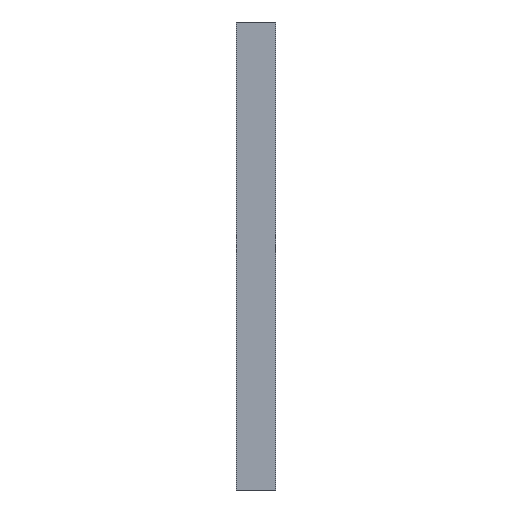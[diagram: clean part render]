
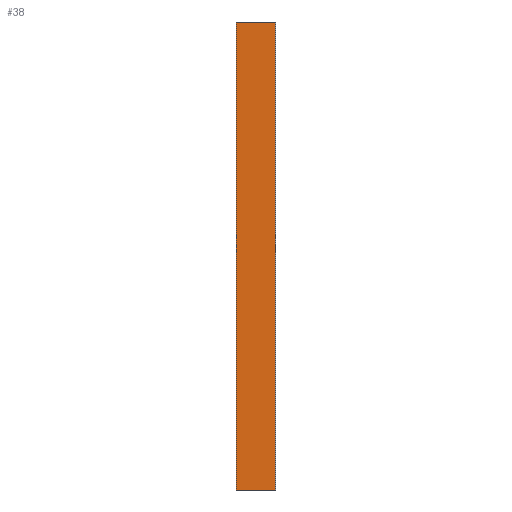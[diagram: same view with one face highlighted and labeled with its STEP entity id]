
A CAD part, left-side view. The second image highlights one B-rep face of the part: STEP entity #38.
In plain terms, the highlighted planar face has unit normal (-1, 0, 0).
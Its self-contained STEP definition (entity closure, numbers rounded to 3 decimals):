
#5 = EDGE_LOOP ( 'NONE', ( #135, #131, #52, #180 ) ) ;
#11 = LINE ( 'NONE', #125, #77 ) ;
#35 = CARTESIAN_POINT ( 'NONE',  ( -1228.427, 0., 399.894 ) ) ;
#38 = ADVANCED_FACE ( 'NONE', ( #123 ), #152, .F. ) ;
#44 = VERTEX_POINT ( 'NONE', #102 ) ;
#52 = ORIENTED_EDGE ( 'NONE', *, *, #65, .F. ) ;
#65 = EDGE_CURVE ( 'NONE', #44, #126, #108, .T. ) ;
#76 = VECTOR ( 'NONE', #136, 1000. ) ;
#77 = VECTOR ( 'NONE', #142, 1000. ) ;
#79 = EDGE_CURVE ( 'NONE', #126, #138, #122, .T. ) ;
#80 = LINE ( 'NONE', #144, #76 ) ;
#86 = CARTESIAN_POINT ( 'NONE',  ( -1228.427, 10., 399.894 ) ) ;
#102 = CARTESIAN_POINT ( 'NONE',  ( -1228.427, 10., 399.894 ) ) ;
#107 = CARTESIAN_POINT ( 'NONE',  ( -1228.427, 0., 519.894 ) ) ;
#108 = LINE ( 'NONE', #193, #114 ) ;
#111 = VECTOR ( 'NONE', #183, 1000. ) ;
#114 = VECTOR ( 'NONE', #192, 1000. ) ;
#118 = DIRECTION ( 'NONE',  ( 0., 0., -1. ) ) ;
#119 = EDGE_CURVE ( 'NONE', #184, #138, #80, .T. ) ;
#122 = LINE ( 'NONE', #200, #111 ) ;
#123 = FACE_OUTER_BOUND ( 'NONE', #5, .T. ) ;
#125 = CARTESIAN_POINT ( 'NONE',  ( -1228.427, 10., 399.894 ) ) ;
#126 = VERTEX_POINT ( 'NONE', #129 ) ;
#129 = CARTESIAN_POINT ( 'NONE',  ( -1228.427, 10., 519.894 ) ) ;
#131 = ORIENTED_EDGE ( 'NONE', *, *, #79, .F. ) ;
#132 = EDGE_CURVE ( 'NONE', #44, #184, #11, .T. ) ;
#135 = ORIENTED_EDGE ( 'NONE', *, *, #119, .T. ) ;
#136 = DIRECTION ( 'NONE',  ( 0., 0., 1. ) ) ;
#137 = DIRECTION ( 'NONE',  ( 1., 0., 0. ) ) ;
#138 = VERTEX_POINT ( 'NONE', #107 ) ;
#142 = DIRECTION ( 'NONE',  ( 0., -1., 0. ) ) ;
#144 = CARTESIAN_POINT ( 'NONE',  ( -1228.427, 0., 399.894 ) ) ;
#152 = PLANE ( 'NONE',  #177 ) ;
#177 = AXIS2_PLACEMENT_3D ( 'NONE', #86, #137, #118 ) ;
#180 = ORIENTED_EDGE ( 'NONE', *, *, #132, .T. ) ;
#183 = DIRECTION ( 'NONE',  ( 0., -1., 0. ) ) ;
#184 = VERTEX_POINT ( 'NONE', #35 ) ;
#192 = DIRECTION ( 'NONE',  ( 0., 0., 1. ) ) ;
#193 = CARTESIAN_POINT ( 'NONE',  ( -1228.427, 10., 399.894 ) ) ;
#200 = CARTESIAN_POINT ( 'NONE',  ( -1228.427, 10., 519.894 ) ) ;
